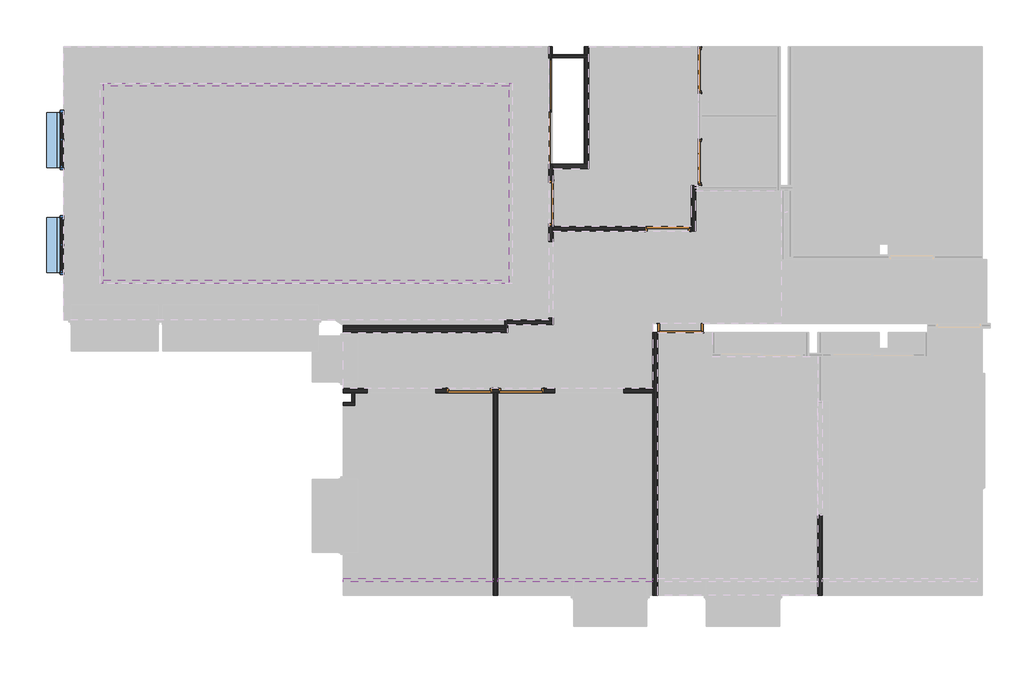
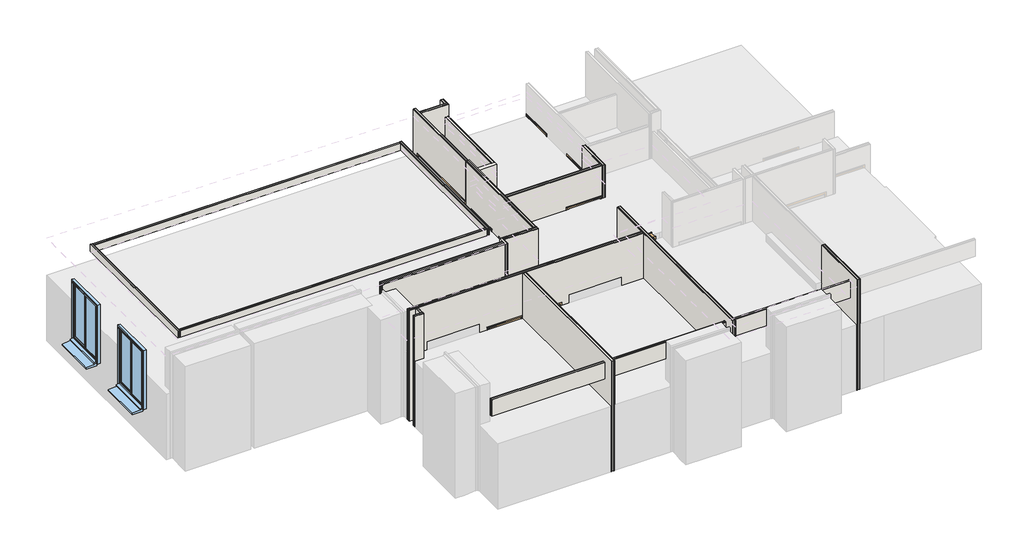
# One storey, part 1 of 6: 24 walls, 8 doors, 2 windows.
"""IFC4 building model written with IfcOpenShell, lengths in millimetres."""

from ifc_helpers import new_model, si_unit, frame, origin, origin_with_axes, place, context, project, spatial, polyline, outline, extrude, transform, mapped, element, save
from components import door_440ebcd5, door_922e83f1, door_a5923646, door_14448009, door_3187a77a, door_fe86ba10, window_433253bf

model = new_model("IFC4")

# Units and contexts
model_context = context("Model", 3, world=origin())
ifc_project = project(units=[si_unit("LENGTHUNIT", "METRE", prefix="MILLI")], contexts=[model_context])

# Site, building, storey
site = spatial("IfcSite", under=ifc_project)
building = spatial("IfcBuilding", under=site)
storey = spatial("IfcBuildingStorey", under=building, Name="0 Mairie RDC 0.00", Elevation=0.0)

# Doors
placement = place(None, origin())
door_shape = door_440ebcd5(model_context)
element("IfcDoor", 1, ObjectType="Portes - Int. Simple - PP (0.89m x 2.04m)", at=placement, inside=storey, context=model_context, shape_type="MappedRepresentation", body=[
    mapped(door_shape, transform((-16975.446161, -8232.7637435, 0.0), x_axis=(1.0, 0.0, 0.0), y_axis=(0.0, 1.0, 0.0), z_axis=(0.0, 0.0, 1.0))),
])
door_2_shape = door_922e83f1(model_context)
element("IfcDoor", 2, ObjectType="Portes - Int. Simple - PP (0.89m x 2.04m) (1)", at=placement, inside=storey, context=model_context, shape_type="MappedRepresentation", body=[
    mapped(door_2_shape, transform((-16111.6269046, -5912.7637435, 0.0), x_axis=(-1.0, 0.0, 0.0), y_axis=(0.0, -1.0, 0.0), z_axis=(0.0, 0.0, 1.0))),
])
element("IfcDoor", 3, ObjectType="Portes - Int. Simple - PP (0.89m x 2.04m) (1)", at=placement, inside=storey, context=model_context, shape_type="MappedRepresentation", body=[
    mapped(door_2_shape, transform((-20457.1562042, -9549.0775347, 0.0), x_axis=(1.0, 0.0, 0.0), y_axis=(0.0, 1.0, 0.0), z_axis=(0.0, 0.0, 1.0))),
])
element("IfcDoor", 4, ObjectType="Portes - Int. Simple - PP (0.89m x 2.04m) (1)", at=placement, inside=storey, context=model_context, shape_type="MappedRepresentation", body=[
    mapped(door_2_shape, transform((-19182.1823363, -5967.7637435, 0.0), x_axis=(0.0, 1.0, 0.0), y_axis=(-1.0, 0.0, 0.0), z_axis=(0.0, 0.0, 1.0))),
])
door_3_shape = door_a5923646(model_context)
element("IfcDoor", 5, ObjectType="Portes - Int. Simple - PP (0.89m x 2.04m) (2)", at=placement, inside=storey, context=model_context, shape_type="MappedRepresentation", body=[
    mapped(door_3_shape, transform((-21517.1562042, -9549.0775347, 0.0), x_axis=(1.0, 0.0, 0.0), y_axis=(0.0, 1.0, 0.0), z_axis=(0.0, 0.0, 1.0))),
])
door_4_shape = door_14448009(model_context)
element("IfcDoor", 6, ObjectType="Portes - Int. Simple - PP (0.89m x 2.04m) (3)", at=placement, inside=storey, context=model_context, shape_type="MappedRepresentation", body=[
    mapped(door_4_shape, transform((-16015.9503686, -1917.7637486, 0.0), x_axis=(0.0, -1.0, 0.0), y_axis=(1.0, 0.0, 0.0), z_axis=(0.0, 0.0, 1.0))),
])
door_5_shape = door_3187a77a(model_context)
element("IfcDoor", 7, ObjectType="Portes - Int. Simple - PP (0.89m x 2.04m) (4)", at=placement, inside=storey, context=model_context, shape_type="MappedRepresentation", body=[
    mapped(door_5_shape, transform((-16015.9503686, -4004.9219201, 0.0), x_axis=(0.0, -1.0, 0.0), y_axis=(1.0, 0.0, 0.0), z_axis=(0.0, 0.0, 1.0))),
])
door_6_shape = door_fe86ba10(model_context)
element("IfcDoor", 8, ObjectType="Portes - Placard coulissante - 2 panneaux - Placard coulissante - 2 panneaux 2.32", at=placement, inside=storey, context=model_context, shape_type="MappedRepresentation", body=[
    mapped(door_6_shape, transform((-19282.1823363, -2222.7637486, 0.0), x_axis=(0.0, -1.0, 0.0), y_axis=(1.0, 0.0, 0.0), z_axis=(0.0, 0.0, 1.0))),
])

# Walls
element("IfcWall", 9, ObjectType="Murs - Mur de base - A cloison placostil 98 sèche", at=placement, inside=storey, context=model_context, shape_type="SweptSolid", body=[
    extrude(outline(polyline([(-13404.255006, -13978.5662223), (-13404.255006, -12228.7534329), (-13391.755006, -12228.7534329), (-13391.755006, -13978.5662223), (-13404.255006, -13978.5662223)])), origin_with_axes(), (0.0, 0.0, 1.0), 3370.0),
    extrude(outline(polyline([(-13391.755006, -13978.5662223), (-13391.755006, -12228.7534329), (-13379.255006, -12228.7534329), (-13379.255006, -13978.5662223), (-13391.755006, -13978.5662223)])), origin_with_axes(), (0.0, 0.0, 1.0), 3370.0),
    extrude(outline(polyline([(-13379.255006, -13978.5662223), (-13379.255006, -12228.7534329), (-13329.255006, -12228.7534329), (-13329.255006, -13978.5662223), (-13379.255006, -13978.5662223)])), origin_with_axes(), (0.0, 0.0, 1.0), 3370.0),
    extrude(outline(polyline([(-13329.255006, -13978.5662223), (-13329.255006, -12228.7534329), (-13316.755006, -12228.7534329), (-13316.755006, -13978.5662223), (-13329.255006, -13978.5662223)])), origin_with_axes(), (0.0, 0.0, 1.0), 3370.0),
    extrude(outline(polyline([(-13316.755006, -13978.5662223), (-13316.755006, -12228.7534329), (-13304.255006, -12228.7534329), (-13304.255006, -13978.5662223), (-13316.755006, -13978.5662223)])), origin_with_axes(), (0.0, 0.0, 1.0), 3370.0),
])
element("IfcWall", 10, ObjectType="Murs - Mur de base - A cloison placostil 98 sèche", at=placement, inside=storey, context=model_context, shape_type="SweptSolid", body=[
    extrude(outline(polyline([(-16166.6269046, -6012.7637435), (-16166.6269046, -5019.9219201), (-16154.1269046, -5019.9219201), (-16154.1269046, -6012.7637435), (-16166.6269046, -6012.7637435)])), origin_with_axes(), (0.0, 0.0, 1.0), 3000.0),
    extrude(outline(polyline([(-16154.1269046, -6012.7637435), (-16154.1269046, -5019.9219201), (-16141.6269046, -5019.9219201), (-16141.6269046, -6012.7637435), (-16154.1269046, -6012.7637435)])), origin_with_axes(), (0.0, 0.0, 1.0), 3000.0),
    extrude(outline(polyline([(-16141.6269046, -6012.7637435), (-16141.6269046, -5019.9219201), (-16091.6269046, -5019.9219201), (-16091.6269046, -6012.7637435), (-16141.6269046, -6012.7637435)])), origin_with_axes(), (0.0, 0.0, 1.0), 3000.0),
    extrude(outline(polyline([(-16091.6269046, -6012.7637435), (-16091.6269046, -5019.9219201), (-16079.1269046, -5019.9219201), (-16079.1269046, -6012.7637435), (-16091.6269046, -6012.7637435)])), origin_with_axes(), (0.0, 0.0, 1.0), 3000.0),
    extrude(outline(polyline([(-16079.1269046, -6012.7637435), (-16079.1269046, -5019.9219201), (-16066.6269046, -5019.9219201), (-16066.6269046, -6012.7637435), (-16079.1269046, -6012.7637435)])), origin_with_axes(), (0.0, 0.0, 1.0), 3000.0),
])
element("IfcWall", 11, ObjectType="Murs - Mur de base - A cloison placostil 98 sèche", at=placement, inside=storey, context=model_context, shape_type="SweptSolid", body=[
    extrude(outline(polyline([(3000.0, -16166.6269046), (3000.0, -19182.1823363), (0.0, -19182.1823363), (0.0, -17181.6269046), (2075.0, -17181.6269046), (2075.0, -16181.6269046), (0.0, -16181.6269046), (0.0, -16166.6269046), (3000.0, -16166.6269046)])), frame((0.0, -6012.7637435, 0.0), z_axis=(0.0, 1.0, 0.0), x_axis=(0.0, 0.0, 1.0)), (0.0, 0.0, 1.0), 12.5),
    extrude(outline(polyline([(3000.0, -16166.6269046), (3000.0, -19182.1823363), (0.0, -19182.1823363), (0.0, -17181.6269046), (2075.0, -17181.6269046), (2075.0, -16181.6269046), (0.0, -16181.6269046), (0.0, -16166.6269046), (3000.0, -16166.6269046)])), frame((0.0, -6000.2637435, 0.0), z_axis=(0.0, 1.0, 0.0), x_axis=(0.0, 0.0, 1.0)), (0.0, 0.0, 1.0), 12.5),
    extrude(outline(polyline([(3000.0, -16166.6269046), (3000.0, -19182.1823363), (0.0, -19182.1823363), (0.0, -17181.6269046), (2075.0, -17181.6269046), (2075.0, -16181.6269046), (0.0, -16181.6269046), (0.0, -16166.6269046), (3000.0, -16166.6269046)])), frame((0.0, -5987.7637435, 0.0), z_axis=(0.0, 1.0, 0.0), x_axis=(0.0, 0.0, 1.0)), (0.0, 0.0, 1.0), 50.0),
    extrude(outline(polyline([(3000.0, -16166.6269046), (3000.0, -19182.1823363), (0.0, -19182.1823363), (0.0, -17181.6269046), (2075.0, -17181.6269046), (2075.0, -16181.6269046), (0.0, -16181.6269046), (0.0, -16166.6269046), (3000.0, -16166.6269046)])), frame((0.0, -5937.7637435, 0.0), z_axis=(0.0, 1.0, 0.0), x_axis=(0.0, 0.0, 1.0)), (0.0, 0.0, 1.0), 12.5),
    extrude(outline(polyline([(3000.0, -16166.6269046), (3000.0, -19182.1823363), (0.0, -19182.1823363), (0.0, -17181.6269046), (2075.0, -17181.6269046), (2075.0, -16181.6269046), (0.0, -16181.6269046), (0.0, -16166.6269046), (3000.0, -16166.6269046)])), frame((0.0, -5925.2637435, 0.0), z_axis=(0.0, 1.0, 0.0), x_axis=(0.0, 0.0, 1.0)), (0.0, 0.0, 1.0), 12.5),
])
element("IfcWall", 12, ObjectType="Murs - Mur de base - A cloison placostil 72 sèche", at=placement, inside=storey, context=model_context, shape_type="SweptSolid", body=[
    extrude(outline(polyline([(-18412.1823363, -2152.7637486), (-18412.1823363, -2162.7637486), (-19212.1823363, -2162.7637486), (-19212.1823363, -2152.7637486), (-18412.1823363, -2152.7637486)])), origin_with_axes(), (0.0, 0.0, 1.0), 3370.0),
    extrude(outline(polyline([(-18412.1823363, -2162.7637486), (-18412.1823363, -2212.7637486), (-19212.1823363, -2212.7637486), (-19212.1823363, -2162.7637486), (-18412.1823363, -2162.7637486)])), origin_with_axes(), (0.0, 0.0, 1.0), 3370.0),
    extrude(outline(polyline([(-18412.1823363, -2212.7637486), (-18412.1823363, -2222.7637486), (-19212.1823363, -2222.7637486), (-19212.1823363, -2212.7637486), (-18412.1823363, -2212.7637486)])), origin_with_axes(), (0.0, 0.0, 1.0), 3370.0),
])
element("IfcWall", 13, ObjectType="Murs - Mur de base - A cloison placostil 72 sèche", at=placement, inside=storey, context=model_context, shape_type="SweptSolid", body=[
    extrude(outline(polyline([(-4593.7637486, 3370.0), (-1972.7637486, 3370.0), (-1972.7637486, 0.0), (-2222.7637486, 0.0), (-2222.7637486, 2100.0), (-4542.7637486, 2100.0), (-4542.7637486, 0.0), (-4593.7637486, 0.0), (-4593.7637486, 3370.0)])), frame((-19222.1823363, 0.0, 0.0), z_axis=(1.0, 0.0, 0.0), x_axis=(0.0, 1.0, 0.0)), (0.0, 0.0, 1.0), 10.0),
    extrude(outline(polyline([(-4593.7637486, 3370.0), (-1972.7637486, 3370.0), (-1972.7637486, 0.0), (-2222.7637486, 0.0), (-2222.7637486, 2100.0), (-4542.7637486, 2100.0), (-4542.7637486, 0.0), (-4593.7637486, 0.0), (-4593.7637486, 3370.0)])), frame((-19272.1823363, 0.0, 0.0), z_axis=(1.0, 0.0, 0.0), x_axis=(0.0, 1.0, 0.0)), (0.0, 0.0, 1.0), 50.0),
    extrude(outline(polyline([(-4593.7637486, 3370.0), (-1972.7637486, 3370.0), (-1972.7637486, 0.0), (-2222.7637486, 0.0), (-2222.7637486, 2100.0), (-4542.7637486, 2100.0), (-4542.7637486, 0.0), (-4593.7637486, 0.0), (-4593.7637486, 3370.0)])), frame((-19282.1823363, 0.0, 0.0), z_axis=(1.0, 0.0, 0.0), x_axis=(0.0, 1.0, 0.0)), (0.0, 0.0, 1.0), 10.0),
])
element("IfcWall", 14, ObjectType="Murs - Mur de base - A cloison placostil 98 sèche", at=placement, inside=storey, context=model_context, shape_type="SweptSolid", body=[
    extrude(outline(polyline([(-20176.3913721, -7952.7608719), (-19182.1823363, -7952.7608719), (-19182.1823363, -7965.2608719), (-20176.3913721, -7965.2608719), (-20176.3913721, -7952.7608719)])), origin_with_axes(), (0.0, 0.0, 1.0), 3370.0),
    extrude(outline(polyline([(-20176.3913721, -7965.2608719), (-19182.1823363, -7965.2608719), (-19182.1823363, -7977.7608719), (-20176.3913721, -7977.7608719), (-20176.3913721, -7965.2608719)])), origin_with_axes(), (0.0, 0.0, 1.0), 3370.0),
    extrude(outline(polyline([(-20176.3913721, -7977.7608719), (-19182.1823363, -7977.7608719), (-19182.1823363, -8027.7608719), (-20176.3913721, -8027.7608719), (-20176.3913721, -7977.7608719)])), origin_with_axes(), (0.0, 0.0, 1.0), 3370.0),
    extrude(outline(polyline([(-20176.3913721, -8027.7608719), (-19182.1823363, -8027.7608719), (-19182.1823363, -8040.2608719), (-20176.3913721, -8040.2608719), (-20176.3913721, -8027.7608719)])), origin_with_axes(), (0.0, 0.0, 1.0), 3370.0),
    extrude(outline(polyline([(-20176.3913721, -8040.2608719), (-19182.1823363, -8040.2608719), (-19182.1823363, -8052.7608719), (-20176.3913721, -8052.7608719), (-20176.3913721, -8040.2608719)])), origin_with_axes(), (0.0, 0.0, 1.0), 3370.0),
])
element("IfcWall", 15, ObjectType="Murs - Mur de base - A cloison placostil 72 sèche", at=placement, inside=storey, context=model_context, shape_type="SweptSolid", body=[
    extrude(outline(polyline([(-20246.3913721, -7952.7608719), (-20236.3913721, -7952.7608719), (-20236.3913721, -8230.3569594), (-20246.3913721, -8230.3569594), (-20246.3913721, -7952.7608719)])), origin_with_axes(), (0.0, 0.0, 1.0), 3370.0),
    extrude(outline(polyline([(-20236.3913721, -7952.7608719), (-20186.3913721, -7952.7608719), (-20186.3913721, -8230.3569594), (-20236.3913721, -8230.3569594), (-20236.3913721, -7952.7608719)])), origin_with_axes(), (0.0, 0.0, 1.0), 3370.0),
    extrude(outline(polyline([(-20186.3913721, -7952.7608719), (-20176.3913721, -7952.7608719), (-20176.3913721, -8230.3569594), (-20186.3913721, -8230.3569594), (-20186.3913721, -7952.7608719)])), origin_with_axes(), (0.0, 0.0, 1.0), 3370.0),
])
element("IfcWall", 16, ObjectType="Murs - Mur de base - A cloison placostil 72 sèche", at=placement, inside=storey, context=model_context, shape_type="SweptSolid", body=[
    extrude(outline(polyline([(-23778.2803137, -9829.2788136), (-23778.2803137, -9819.2788136), (-23520.6325674, -9819.2788136), (-23520.6325674, -9829.2788136), (-23778.2803137, -9829.2788136)])), origin_with_axes(), (0.0, 0.0, 1.0), 3370.0),
    extrude(outline(polyline([(-23778.2803137, -9819.2788136), (-23778.2803137, -9769.2788136), (-23520.6325674, -9769.2788136), (-23520.6325674, -9819.2788136), (-23778.2803137, -9819.2788136)])), origin_with_axes(), (0.0, 0.0, 1.0), 3370.0),
    extrude(outline(polyline([(-23778.2803137, -9769.2788136), (-23778.2803137, -9759.2788136), (-23520.6325674, -9759.2788136), (-23520.6325674, -9769.2788136), (-23778.2803137, -9769.2788136)])), origin_with_axes(), (0.0, 0.0, 1.0), 3370.0),
])
element("IfcWall", 17, ObjectType="Murs - Mur de base - A cloison placostil 72 sèche", at=placement, inside=storey, context=model_context, shape_type="SweptSolid", body=[
    extrude(outline(polyline([(-23520.6325674, -9759.2788136), (-23530.6325674, -9759.2788136), (-23530.6325674, -9549.0775347), (-23520.6325674, -9549.0775347), (-23520.6325674, -9759.2788136)])), origin_with_axes(), (0.0, 0.0, 1.0), 3370.0),
    extrude(outline(polyline([(-23530.6325674, -9759.2788136), (-23580.6325674, -9759.2788136), (-23580.6325674, -9549.0775347), (-23530.6325674, -9549.0775347), (-23530.6325674, -9759.2788136)])), origin_with_axes(), (0.0, 0.0, 1.0), 3370.0),
    extrude(outline(polyline([(-23580.6325674, -9759.2788136), (-23590.6325674, -9759.2788136), (-23590.6325674, -9549.0775347), (-23580.6325674, -9549.0775347), (-23580.6325674, -9759.2788136)])), origin_with_axes(), (0.0, 0.0, 1.0), 3370.0),
])
element("IfcWall", 18, ObjectType="Murs - Mur de base - A cloison placostil 140 sèche", at=placement, inside=storey, context=model_context, shape_type="SweptSolid", body=[
    extrude(outline(polyline([(-23778.2803137, -8080.3569594), (-20246.3913721, -8080.3569594), (-20246.3913721, -8092.8569594), (-23778.2803137, -8092.8569594), (-23778.2803137, -8080.3569594)])), origin_with_axes(), (0.0, 0.0, 1.0), 3370.0),
    extrude(outline(polyline([(-23778.2803137, -8092.8569594), (-20246.3913721, -8092.8569594), (-20246.3913721, -8105.3569594), (-23778.2803137, -8105.3569594), (-23778.2803137, -8092.8569594)])), origin_with_axes(), (0.0, 0.0, 1.0), 3370.0),
    extrude(outline(polyline([(-23778.2803137, -8105.3569594), (-20246.3913721, -8105.3569594), (-20246.3913721, -8155.3569594), (-23778.2803137, -8155.3569594), (-23778.2803137, -8105.3569594)])), origin_with_axes(), (0.0, 0.0, 1.0), 3370.0),
    extrude(outline(polyline([(-23778.2803137, -8155.3569594), (-20246.3913721, -8155.3569594), (-20246.3913721, -8205.3569594), (-23778.2803137, -8205.3569594), (-23778.2803137, -8155.3569594)])), origin_with_axes(), (0.0, 0.0, 1.0), 3370.0),
    extrude(outline(polyline([(-23778.2803137, -8205.3569594), (-20246.3913721, -8205.3569594), (-20246.3913721, -8217.8569594), (-23778.2803137, -8217.8569594), (-23778.2803137, -8205.3569594)])), origin_with_axes(), (0.0, 0.0, 1.0), 3370.0),
    extrude(outline(polyline([(-23778.2803137, -8217.8569594), (-20246.3913721, -8217.8569594), (-20246.3913721, -8230.3569594), (-23778.2803137, -8230.3569594), (-23778.2803137, -8217.8569594)])), origin_with_axes(), (0.0, 0.0, 1.0), 3370.0),
])
element("IfcWall", 19, ObjectType="Murs - Mur de base - A cloison placostil 98 sèche", at=placement, inside=storey, context=model_context, shape_type="SweptSolid", body=[
    extrude(outline(polyline([(-20502.1562042, -13978.5662223), (-20502.1562042, -9549.0775347), (-20489.6562042, -9549.0775347), (-20489.6562042, -13978.5662223), (-20502.1562042, -13978.5662223)])), origin_with_axes(), (0.0, 0.0, 1.0), 3370.0),
    extrude(outline(polyline([(-20489.6562042, -13978.5662223), (-20489.6562042, -9549.0775347), (-20477.1562042, -9549.0775347), (-20477.1562042, -13978.5662223), (-20489.6562042, -13978.5662223)])), origin_with_axes(), (0.0, 0.0, 1.0), 3370.0),
    extrude(outline(polyline([(-20477.1562042, -13978.5662223), (-20477.1562042, -9549.0775347), (-20427.1562042, -9549.0775347), (-20427.1562042, -13978.5662223), (-20477.1562042, -13978.5662223)])), origin_with_axes(), (0.0, 0.0, 1.0), 3370.0),
    extrude(outline(polyline([(-20427.1562042, -13978.5662223), (-20427.1562042, -9549.0775347), (-20414.6562042, -9549.0775347), (-20414.6562042, -13978.5662223), (-20427.1562042, -13978.5662223)])), origin_with_axes(), (0.0, 0.0, 1.0), 3370.0),
    extrude(outline(polyline([(-20414.6562042, -13978.5662223), (-20414.6562042, -9549.0775347), (-20402.1562042, -9549.0775347), (-20402.1562042, -13978.5662223), (-20414.6562042, -13978.5662223)])), origin_with_axes(), (0.0, 0.0, 1.0), 3370.0),
])
element("IfcWall", 20, ObjectType="Murs - Mur de base - A cloison placostil 98 sèche", at=placement, inside=storey, context=model_context, shape_type="SweptSolid", body=[
    extrude(outline(polyline([(-17005.446161, -13978.5662223), (-17005.446161, -8232.7637435), (-16992.946161, -8232.7637435), (-16992.946161, -13978.5662223), (-17005.446161, -13978.5662223)])), origin_with_axes(), (0.0, 0.0, 1.0), 3370.0),
    extrude(outline(polyline([(-16992.946161, -13978.5662223), (-16992.946161, -8232.7637435), (-16980.446161, -8232.7637435), (-16980.446161, -13978.5662223), (-16992.946161, -13978.5662223)])), origin_with_axes(), (0.0, 0.0, 1.0), 3370.0),
    extrude(outline(polyline([(-16980.446161, -13978.5662223), (-16980.446161, -8232.7637435), (-16930.446161, -8232.7637435), (-16930.446161, -13978.5662223), (-16980.446161, -13978.5662223)])), origin_with_axes(), (0.0, 0.0, 1.0), 3370.0),
    extrude(outline(polyline([(-16930.446161, -13978.5662223), (-16930.446161, -8232.7637435), (-16917.946161, -8232.7637435), (-16917.946161, -13978.5662223), (-16930.446161, -13978.5662223)])), origin_with_axes(), (0.0, 0.0, 1.0), 3370.0),
    extrude(outline(polyline([(-16917.946161, -13978.5662223), (-16917.946161, -8232.7637435), (-16905.446161, -8232.7637435), (-16905.446161, -13978.5662223), (-16917.946161, -13978.5662223)])), origin_with_axes(), (0.0, 0.0, 1.0), 3370.0),
])
element("IfcWall", 21, ObjectType="Murs - Mur de base - A cloison placostil 98 sèche", at=placement, inside=storey, context=model_context, shape_type="SweptSolid", body=[
    extrude(outline(polyline([(3370.0, -17005.446161), (3370.0, -23778.2803137), (0.0, -23778.2803137), (0.0, -21517.1562042), (2075.0, -21517.1562042), (2075.0, -20517.1562042), (0.0, -20517.1562042), (0.0, -20387.1562042), (2075.0, -20387.1562042), (2075.0, -19387.1562042), (0.0, -19387.1562042), (0.0, -17005.446161), (3370.0, -17005.446161)]), holes=[polyline([(2250.0, -17647.7536837), (1000.0, -17647.7536837), (1000.0, -19147.7536837), (2250.0, -19147.7536837), (2250.0, -17647.7536837)]), polyline([(2250.0, -21750.7759366), (1000.0, -21750.7759366), (1000.0, -23250.7759366), (2250.0, -23250.7759366), (2250.0, -21750.7759366)])]), frame((0.0, -9461.5775347, 0.0), z_axis=(0.0, 1.0, 0.0), x_axis=(0.0, 0.0, 1.0)), (0.0, 0.0, 1.0), 12.5),
    extrude(outline(polyline([(3370.0, -17005.446161), (3370.0, -23778.2803137), (0.0, -23778.2803137), (0.0, -21517.1562042), (2075.0, -21517.1562042), (2075.0, -20517.1562042), (0.0, -20517.1562042), (0.0, -20387.1562042), (2075.0, -20387.1562042), (2075.0, -19387.1562042), (0.0, -19387.1562042), (0.0, -17005.446161), (3370.0, -17005.446161)]), holes=[polyline([(2250.0, -17647.7536837), (1000.0, -17647.7536837), (1000.0, -19147.7536837), (2250.0, -19147.7536837), (2250.0, -17647.7536837)]), polyline([(2250.0, -21750.7759366), (1000.0, -21750.7759366), (1000.0, -23250.7759366), (2250.0, -23250.7759366), (2250.0, -21750.7759366)])]), frame((0.0, -9474.0775347, 0.0), z_axis=(0.0, 1.0, 0.0), x_axis=(0.0, 0.0, 1.0)), (0.0, 0.0, 1.0), 12.5),
    extrude(outline(polyline([(3370.0, -17005.446161), (3370.0, -23778.2803137), (0.0, -23778.2803137), (0.0, -21517.1562042), (2075.0, -21517.1562042), (2075.0, -20517.1562042), (0.0, -20517.1562042), (0.0, -20387.1562042), (2075.0, -20387.1562042), (2075.0, -19387.1562042), (0.0, -19387.1562042), (0.0, -17005.446161), (3370.0, -17005.446161)]), holes=[polyline([(2250.0, -17647.7536837), (1000.0, -17647.7536837), (1000.0, -19147.7536837), (2250.0, -19147.7536837), (2250.0, -17647.7536837)]), polyline([(2250.0, -21750.7759366), (1000.0, -21750.7759366), (1000.0, -23250.7759366), (2250.0, -23250.7759366), (2250.0, -21750.7759366)])]), frame((0.0, -9524.0775347, 0.0), z_axis=(0.0, 1.0, 0.0), x_axis=(0.0, 0.0, 1.0)), (0.0, 0.0, 1.0), 50.0),
    extrude(outline(polyline([(3370.0, -17005.446161), (3370.0, -23778.2803137), (0.0, -23778.2803137), (0.0, -21517.1562042), (2075.0, -21517.1562042), (2075.0, -20517.1562042), (0.0, -20517.1562042), (0.0, -20387.1562042), (2075.0, -20387.1562042), (2075.0, -19387.1562042), (0.0, -19387.1562042), (0.0, -17005.446161), (3370.0, -17005.446161)]), holes=[polyline([(2250.0, -17647.7536837), (1000.0, -17647.7536837), (1000.0, -19147.7536837), (2250.0, -19147.7536837), (2250.0, -17647.7536837)]), polyline([(2250.0, -21750.7759366), (1000.0, -21750.7759366), (1000.0, -23250.7759366), (2250.0, -23250.7759366), (2250.0, -21750.7759366)])]), frame((0.0, -9536.5775347, 0.0), z_axis=(0.0, 1.0, 0.0), x_axis=(0.0, 0.0, 1.0)), (0.0, 0.0, 1.0), 12.5),
    extrude(outline(polyline([(3370.0, -17005.446161), (3370.0, -23778.2803137), (0.0, -23778.2803137), (0.0, -21517.1562042), (2075.0, -21517.1562042), (2075.0, -20517.1562042), (0.0, -20517.1562042), (0.0, -20387.1562042), (2075.0, -20387.1562042), (2075.0, -19387.1562042), (0.0, -19387.1562042), (0.0, -17005.446161), (3370.0, -17005.446161)]), holes=[polyline([(2250.0, -17647.7536837), (1000.0, -17647.7536837), (1000.0, -19147.7536837), (2250.0, -19147.7536837), (2250.0, -17647.7536837)]), polyline([(2250.0, -21750.7759366), (1000.0, -21750.7759366), (1000.0, -23250.7759366), (2250.0, -23250.7759366), (2250.0, -21750.7759366)])]), frame((0.0, -9549.0775347, 0.0), z_axis=(0.0, 1.0, 0.0), x_axis=(0.0, 0.0, 1.0)), (0.0, 0.0, 1.0), 12.5),
])
element("IfcWall", 22, ObjectType="Murs - Mur de base - A cloison placostil 98 sèche", at=placement, inside=storey, context=model_context, shape_type="SweptSolid", body=[
    extrude(outline(polyline([(-7952.7608719, 3370.0), (-4593.7637486, 3370.0), (-4593.7637486, 0.0), (-4897.7637435, 0.0), (-4897.7637435, 2075.0), (-5897.7637435, 2075.0), (-5897.7637435, 0.0), (-6244.4612155, 0.0), (-6244.4612155, 2075.0), (-7914.4612155, 2075.0), (-7914.4612155, 0.0), (-7952.7608719, 0.0), (-7952.7608719, 3370.0)])), frame((-19194.6823363, 0.0, 0.0), z_axis=(1.0, 0.0, 0.0), x_axis=(0.0, 1.0, 0.0)), (0.0, 0.0, 1.0), 12.5),
    extrude(outline(polyline([(-7952.7608719, 3370.0), (-4593.7637486, 3370.0), (-4593.7637486, 0.0), (-4897.7637435, 0.0), (-4897.7637435, 2075.0), (-5897.7637435, 2075.0), (-5897.7637435, 0.0), (-6244.4612155, 0.0), (-6244.4612155, 2075.0), (-7914.4612155, 2075.0), (-7914.4612155, 0.0), (-7952.7608719, 0.0), (-7952.7608719, 3370.0)])), frame((-19207.1823363, 0.0, 0.0), z_axis=(1.0, 0.0, 0.0), x_axis=(0.0, 1.0, 0.0)), (0.0, 0.0, 1.0), 12.5),
    extrude(outline(polyline([(-7952.7608719, 3370.0), (-4593.7637486, 3370.0), (-4593.7637486, 0.0), (-4897.7637435, 0.0), (-4897.7637435, 2075.0), (-5897.7637435, 2075.0), (-5897.7637435, 0.0), (-6244.4612155, 0.0), (-6244.4612155, 2075.0), (-7914.4612155, 2075.0), (-7914.4612155, 0.0), (-7952.7608719, 0.0), (-7952.7608719, 3370.0)])), frame((-19257.1823363, 0.0, 0.0), z_axis=(1.0, 0.0, 0.0), x_axis=(0.0, 1.0, 0.0)), (0.0, 0.0, 1.0), 50.0),
    extrude(outline(polyline([(-7952.7608719, 3370.0), (-4593.7637486, 3370.0), (-4593.7637486, 0.0), (-4897.7637435, 0.0), (-4897.7637435, 2075.0), (-5897.7637435, 2075.0), (-5897.7637435, 0.0), (-6244.4612155, 0.0), (-6244.4612155, 2075.0), (-7914.4612155, 2075.0), (-7914.4612155, 0.0), (-7952.7608719, 0.0), (-7952.7608719, 3370.0)])), frame((-19269.6823363, 0.0, 0.0), z_axis=(1.0, 0.0, 0.0), x_axis=(0.0, 1.0, 0.0)), (0.0, 0.0, 1.0), 12.5),
    extrude(outline(polyline([(-7952.7608719, 3370.0), (-4593.7637486, 3370.0), (-4593.7637486, 0.0), (-4897.7637435, 0.0), (-4897.7637435, 2075.0), (-5897.7637435, 2075.0), (-5897.7637435, 0.0), (-6244.4612155, 0.0), (-6244.4612155, 2075.0), (-7914.4612155, 2075.0), (-7914.4612155, 0.0), (-7952.7608719, 0.0), (-7952.7608719, 3370.0)])), frame((-19282.1823363, 0.0, 0.0), z_axis=(1.0, 0.0, 0.0), x_axis=(0.0, 1.0, 0.0)), (0.0, 0.0, 1.0), 12.5),
])
element("IfcWall", 23, ObjectType="Murs - Mur de base - A cloison placostil 98 sèche", at=placement, inside=storey, context=model_context, shape_type="SweptSolid", body=[
    extrude(outline(polyline([(-18412.1823363, -4643.7637486), (-19182.1823363, -4643.7637486), (-19182.1823363, -4593.7637486), (-19212.1823363, -4593.7637486), (-19212.1823363, -4543.7637486), (-18512.1823363, -4543.7637486), (-18412.1823363, -4543.7637486), (-18412.1823363, -4643.7637486)])), origin_with_axes(), (0.0, 0.0, 1.0), 3000.0),
])
element("IfcWall", 24, ObjectType="Murs - Mur de base - A cloison placostil 98 sèche", at=placement, inside=storey, context=model_context, shape_type="SweptSolid", body=[
    extrude(outline(polyline([(-18512.1823363, -2152.7637486), (-18512.1823363, -1972.7637486), (-18499.6823363, -1972.7637486), (-18499.6823363, -2152.7637486), (-18512.1823363, -2152.7637486)])), origin_with_axes(), (0.0, 0.0, 1.0), 3370.0),
    extrude(outline(polyline([(-18499.6823363, -2152.7637486), (-18499.6823363, -1972.7637486), (-18487.1823363, -1972.7637486), (-18487.1823363, -2152.7637486), (-18499.6823363, -2152.7637486)])), origin_with_axes(), (0.0, 0.0, 1.0), 3370.0),
    extrude(outline(polyline([(-18487.1823363, -2152.7637486), (-18487.1823363, -1972.7637486), (-18437.1823363, -1972.7637486), (-18437.1823363, -2152.7637486), (-18487.1823363, -2152.7637486)])), origin_with_axes(), (0.0, 0.0, 1.0), 3370.0),
    extrude(outline(polyline([(-18437.1823363, -2152.7637486), (-18437.1823363, -1972.7637486), (-18424.6823363, -1972.7637486), (-18424.6823363, -2152.7637486), (-18437.1823363, -2152.7637486)])), origin_with_axes(), (0.0, 0.0, 1.0), 3370.0),
    extrude(outline(polyline([(-18424.6823363, -2152.7637486), (-18424.6823363, -1972.7637486), (-18412.1823363, -1972.7637486), (-18412.1823363, -2152.7637486), (-18424.6823363, -2152.7637486)])), origin_with_axes(), (0.0, 0.0, 1.0), 3370.0),
])
element("IfcWall", 25, ObjectType="Murs - Mur de base - A cloison placostil 72 sèche", at=placement, inside=storey, context=model_context, shape_type="SweptSolid", body=[
    extrude(outline(polyline([(-20082.1823363, -7153.0211289), (-20092.1823363, -7153.0211289), (-20092.1823363, -2772.7637486), (-20082.1823363, -2772.7637486), (-20082.1823363, -7153.0211289)])), frame((0.0, 0.0, 2950.0), z_axis=(0.0, 0.0, 1.0), x_axis=(1.0, 0.0, 0.0)), (0.0, 0.0, 1.0), 200.0),
    extrude(outline(polyline([(-20092.1823363, -7153.0211289), (-20142.1823363, -7153.0211289), (-20142.1823363, -2772.7637486), (-20092.1823363, -2772.7637486), (-20092.1823363, -7153.0211289)])), frame((0.0, 0.0, 2950.0), z_axis=(0.0, 0.0, 1.0), x_axis=(1.0, 0.0, 0.0)), (0.0, 0.0, 1.0), 200.0),
    extrude(outline(polyline([(-20142.1823363, -7153.0211289), (-20152.1823363, -7153.0211289), (-20152.1823363, -2772.7637486), (-20142.1823363, -2772.7637486), (-20142.1823363, -7153.0211289)])), frame((0.0, 0.0, 2950.0), z_axis=(0.0, 0.0, 1.0), x_axis=(1.0, 0.0, 0.0)), (0.0, 0.0, 1.0), 200.0),
])
element("IfcWall", 26, ObjectType="Murs - Mur de base - A cloison placostil 72 sèche", at=placement, inside=storey, context=model_context, shape_type="SweptSolid", body=[
    extrude(outline(polyline([(-29017.0149756, -7153.0211289), (-29027.0149756, -7153.0211289), (-29027.0149756, -2772.7637486), (-29017.0149756, -2772.7637486), (-29017.0149756, -7153.0211289)])), frame((0.0, 0.0, 2950.0), z_axis=(0.0, 0.0, 1.0), x_axis=(1.0, 0.0, 0.0)), (0.0, 0.0, 1.0), 200.0),
    extrude(outline(polyline([(-29027.0149756, -7153.0211289), (-29077.0149756, -7153.0211289), (-29077.0149756, -2772.7637486), (-29027.0149756, -2772.7637486), (-29027.0149756, -7153.0211289)])), frame((0.0, 0.0, 2950.0), z_axis=(0.0, 0.0, 1.0), x_axis=(1.0, 0.0, 0.0)), (0.0, 0.0, 1.0), 200.0),
    extrude(outline(polyline([(-29077.0149756, -7153.0211289), (-29087.0149756, -7153.0211289), (-29087.0149756, -2772.7637486), (-29077.0149756, -2772.7637486), (-29077.0149756, -7153.0211289)])), frame((0.0, 0.0, 2950.0), z_axis=(0.0, 0.0, 1.0), x_axis=(1.0, 0.0, 0.0)), (0.0, 0.0, 1.0), 200.0),
])
element("IfcWall", 27, ObjectType="Murs - Mur de base - A cloison placostil 72 sèche", at=placement, inside=storey, context=model_context, shape_type="SweptSolid", body=[
    extrude(outline(polyline([(-29017.0149756, -7153.0211289), (-29017.0149756, -7143.0211289), (-20152.1823363, -7143.0211289), (-20152.1823363, -7153.0211289), (-29017.0149756, -7153.0211289)])), frame((0.0, 0.0, 2950.0), z_axis=(0.0, 0.0, 1.0), x_axis=(1.0, 0.0, 0.0)), (0.0, 0.0, 1.0), 200.0),
    extrude(outline(polyline([(-29017.0149756, -7143.0211289), (-29017.0149756, -7093.0211289), (-20152.1823363, -7093.0211289), (-20152.1823363, -7143.0211289), (-29017.0149756, -7143.0211289)])), frame((0.0, 0.0, 2950.0), z_axis=(0.0, 0.0, 1.0), x_axis=(1.0, 0.0, 0.0)), (0.0, 0.0, 1.0), 200.0),
    extrude(outline(polyline([(-29017.0149756, -7093.0211289), (-29017.0149756, -7083.0211289), (-20152.1823363, -7083.0211289), (-20152.1823363, -7093.0211289), (-29017.0149756, -7093.0211289)])), frame((0.0, 0.0, 2950.0), z_axis=(0.0, 0.0, 1.0), x_axis=(1.0, 0.0, 0.0)), (0.0, 0.0, 1.0), 200.0),
])
element("IfcWall", 28, ObjectType="Murs - Mur de base - A cloison placostil 72 sèche", at=placement, inside=storey, context=model_context, shape_type="SweptSolid", body=[
    extrude(outline(polyline([(-29017.0149756, -2842.7637486), (-29017.0149756, -2832.7637486), (-20152.1823363, -2832.7637486), (-20152.1823363, -2842.7637486), (-29017.0149756, -2842.7637486)])), frame((0.0, 0.0, 2950.0), z_axis=(0.0, 0.0, 1.0), x_axis=(1.0, 0.0, 0.0)), (0.0, 0.0, 1.0), 200.0),
    extrude(outline(polyline([(-29017.0149756, -2832.7637486), (-29017.0149756, -2782.7637486), (-20152.1823363, -2782.7637486), (-20152.1823363, -2832.7637486), (-29017.0149756, -2832.7637486)])), frame((0.0, 0.0, 2950.0), z_axis=(0.0, 0.0, 1.0), x_axis=(1.0, 0.0, 0.0)), (0.0, 0.0, 1.0), 200.0),
    extrude(outline(polyline([(-29017.0149756, -2782.7637486), (-29017.0149756, -2772.7637486), (-20152.1823363, -2772.7637486), (-20152.1823363, -2782.7637486), (-29017.0149756, -2782.7637486)])), frame((0.0, 0.0, 2950.0), z_axis=(0.0, 0.0, 1.0), x_axis=(1.0, 0.0, 0.0)), (0.0, 0.0, 1.0), 200.0),
])
element("IfcWall", 29, ObjectType="Murs - Mur de base - A cloison placostil 72 sèche", at=placement, inside=storey, context=model_context, shape_type="SweptSolid", body=[
    extrude(outline(polyline([(-23778.2803137, -13678.5662223), (-23778.2803137, -13668.5662223), (-20502.1562042, -13668.5662223), (-20502.1562042, -13678.5662223), (-23778.2803137, -13678.5662223)])), frame((0.0, 0.0, 2650.0), z_axis=(0.0, 0.0, 1.0), x_axis=(1.0, 0.0, 0.0)), (0.0, 0.0, 1.0), 510.0),
    extrude(outline(polyline([(-23778.2803137, -13668.5662223), (-23778.2803137, -13618.5662223), (-20502.1562042, -13618.5662223), (-20502.1562042, -13668.5662223), (-23778.2803137, -13668.5662223)])), frame((0.0, 0.0, 2650.0), z_axis=(0.0, 0.0, 1.0), x_axis=(1.0, 0.0, 0.0)), (0.0, 0.0, 1.0), 510.0),
    extrude(outline(polyline([(-23778.2803137, -13618.5662223), (-23778.2803137, -13608.5662223), (-20502.1562042, -13608.5662223), (-20502.1562042, -13618.5662223), (-23778.2803137, -13618.5662223)])), frame((0.0, 0.0, 2650.0), z_axis=(0.0, 0.0, 1.0), x_axis=(1.0, 0.0, 0.0)), (0.0, 0.0, 1.0), 510.0),
])
element("IfcWall", 30, ObjectType="Murs - Mur de base - A cloison placostil 72 sèche", at=placement, inside=storey, context=model_context, shape_type="SweptSolid", body=[
    extrude(outline(polyline([(-20402.1562042, -13678.5662223), (-20402.1562042, -13668.5662223), (-17005.446161, -13668.5662223), (-17005.446161, -13678.5662223), (-20402.1562042, -13678.5662223)])), frame((0.0, 0.0, 2650.0), z_axis=(0.0, 0.0, 1.0), x_axis=(1.0, 0.0, 0.0)), (0.0, 0.0, 1.0), 510.0),
    extrude(outline(polyline([(-20402.1562042, -13668.5662223), (-20402.1562042, -13618.5662223), (-17005.446161, -13618.5662223), (-17005.446161, -13668.5662223), (-20402.1562042, -13668.5662223)])), frame((0.0, 0.0, 2650.0), z_axis=(0.0, 0.0, 1.0), x_axis=(1.0, 0.0, 0.0)), (0.0, 0.0, 1.0), 510.0),
    extrude(outline(polyline([(-20402.1562042, -13618.5662223), (-20402.1562042, -13608.5662223), (-17005.446161, -13608.5662223), (-17005.446161, -13618.5662223), (-20402.1562042, -13618.5662223)])), frame((0.0, 0.0, 2650.0), z_axis=(0.0, 0.0, 1.0), x_axis=(1.0, 0.0, 0.0)), (0.0, 0.0, 1.0), 510.0),
])
element("IfcWall", 31, ObjectType="Murs - Mur de base - A cloison placostil 72 sèche", at=placement, inside=storey, context=model_context, shape_type="SweptSolid", body=[
    extrude(outline(polyline([(-16905.446161, -13678.5662223), (-16905.446161, -13668.5662223), (-13404.255006, -13668.5662223), (-13404.255006, -13678.5662223), (-16905.446161, -13678.5662223)])), frame((0.0, 0.0, 2650.0), z_axis=(0.0, 0.0, 1.0), x_axis=(1.0, 0.0, 0.0)), (0.0, 0.0, 1.0), 510.0),
    extrude(outline(polyline([(-16905.446161, -13668.5662223), (-16905.446161, -13618.5662223), (-13404.255006, -13618.5662223), (-13404.255006, -13668.5662223), (-16905.446161, -13668.5662223)])), frame((0.0, 0.0, 2650.0), z_axis=(0.0, 0.0, 1.0), x_axis=(1.0, 0.0, 0.0)), (0.0, 0.0, 1.0), 510.0),
    extrude(outline(polyline([(-16905.446161, -13618.5662223), (-16905.446161, -13608.5662223), (-13404.255006, -13608.5662223), (-13404.255006, -13618.5662223), (-16905.446161, -13618.5662223)])), frame((0.0, 0.0, 2650.0), z_axis=(0.0, 0.0, 1.0), x_axis=(1.0, 0.0, 0.0)), (0.0, 0.0, 1.0), 510.0),
])
element("IfcWall", 32, ObjectType="Murs - Mur de base - A cloison placostil 98 sèche", at=placement, inside=storey, context=model_context, shape_type="SweptSolid", body=[
    extrude(outline(polyline([(-18512.1823363, -4543.7637486), (-18512.1823363, -2222.7637486), (-18499.6823363, -2222.7637486), (-18499.6823363, -4543.7637486), (-18512.1823363, -4543.7637486)])), origin_with_axes(), (0.0, 0.0, 1.0), 3000.0),
    extrude(outline(polyline([(-18499.6823363, -4543.7637486), (-18499.6823363, -2222.7637486), (-18487.1823363, -2222.7637486), (-18487.1823363, -4543.7637486), (-18499.6823363, -4543.7637486)])), origin_with_axes(), (0.0, 0.0, 1.0), 3000.0),
    extrude(outline(polyline([(-18487.1823363, -4543.7637486), (-18487.1823363, -2222.7637486), (-18437.1823363, -2222.7637486), (-18437.1823363, -4543.7637486), (-18487.1823363, -4543.7637486)])), origin_with_axes(), (0.0, 0.0, 1.0), 3000.0),
    extrude(outline(polyline([(-18437.1823363, -4543.7637486), (-18437.1823363, -2222.7637486), (-18424.6823363, -2222.7637486), (-18424.6823363, -4543.7637486), (-18437.1823363, -4543.7637486)])), origin_with_axes(), (0.0, 0.0, 1.0), 3000.0),
    extrude(outline(polyline([(-18424.6823363, -4543.7637486), (-18424.6823363, -2222.7637486), (-18412.1823363, -2222.7637486), (-18412.1823363, -4543.7637486), (-18424.6823363, -4543.7637486)])), origin_with_axes(), (0.0, 0.0, 1.0), 3000.0),
])

# Windows
window_shape = window_433253bf(model_context)
element("IfcWindow", 33, ObjectType="Fenêtres - 2 Vantaux coulissants - Droits - 1.20m x 1.75m", at=placement, inside=storey, context=model_context, shape_type="MappedRepresentation", body=[
    mapped(window_shape, transform((-29567.0149756, -4666.9349077, 870.0), x_axis=(0.0, 1.0, 0.0), y_axis=(-1.0, 0.0, 0.0), z_axis=(0.0, 0.0, 1.0))),
])
element("IfcWindow", 34, ObjectType="Fenêtres - 2 Vantaux coulissants - Droits - 1.20m x 1.75m", at=placement, inside=storey, context=model_context, shape_type="MappedRepresentation", body=[
    mapped(window_shape, transform((-29567.0149756, -6965.7709585, 870.0), x_axis=(0.0, 1.0, 0.0), y_axis=(-1.0, 0.0, 0.0), z_axis=(0.0, 0.0, 1.0))),
])

save(model, "model.ifc")
